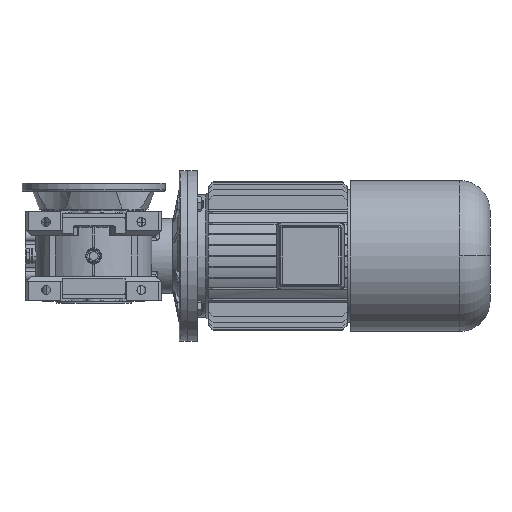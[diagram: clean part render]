
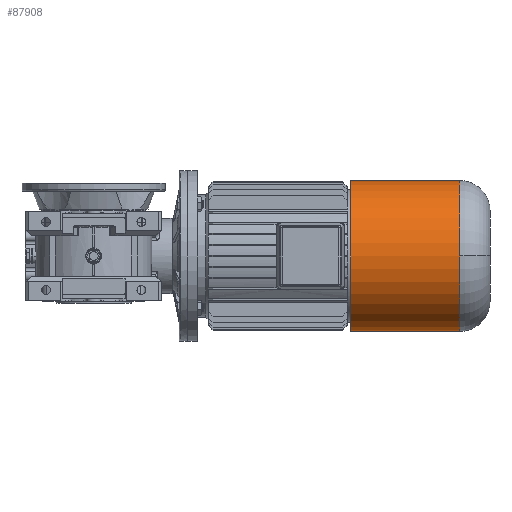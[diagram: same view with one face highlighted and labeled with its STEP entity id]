
A CAD part, front view. The second image highlights one B-rep face of the part: STEP entity #87908.
In plain terms, the highlighted cylindrical face has radius 110.5 mm (diameter 221 mm), a partial arc.
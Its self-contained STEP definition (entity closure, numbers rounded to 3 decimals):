
#87858=CARTESIAN_POINT('',(378.9,0.0,0.0));
#87859=DIRECTION('',(1.0,0.0,0.0));
#87860=DIRECTION('',(0.0,1.0,0.0));
#87861=AXIS2_PLACEMENT_3D('',#87858,#87859,#87860);
#87862=CYLINDRICAL_SURFACE('',#87861,110.5);
#87863=CARTESIAN_POINT('',(299.0,110.5,0.0));
#87864=VERTEX_POINT('',#87863);
#87865=CARTESIAN_POINT('',(458.8,110.5,0.0));
#87866=VERTEX_POINT('',#87865);
#87867=CARTESIAN_POINT('',(299.0,110.5,0.0));
#87868=DIRECTION('',(1.0,0.0,0.0));
#87869=VECTOR('',#87868,159.8);
#87870=LINE('',#87867,#87869);
#87871=EDGE_CURVE('',#87864,#87866,#87870,.T.);
#87872=ORIENTED_EDGE('',*,*,#87871,.F.);
#87873=CARTESIAN_POINT('',(299.0,-110.5,0.));
#87874=VERTEX_POINT('',#87873);
#87875=CARTESIAN_POINT('',(299.0,0.0,0.0));
#87876=DIRECTION('',(1.0,0.0,0.0));
#87877=DIRECTION('',(0.0,1.0,0.0));
#87878=AXIS2_PLACEMENT_3D('',#87875,#87876,#87877);
#87879=CIRCLE('',#87878,110.5);
#87880=EDGE_CURVE('',#87864,#87874,#87879,.T.);
#87881=ORIENTED_EDGE('',*,*,#87880,.T.);
#87882=CARTESIAN_POINT('',(458.8,-110.5,0.));
#87883=VERTEX_POINT('',#87882);
#87884=CARTESIAN_POINT('',(458.8,-110.5,0.));
#87885=DIRECTION('',(-1.0,0.0,0.0));
#87886=VECTOR('',#87885,159.8);
#87887=LINE('',#87884,#87886);
#87888=EDGE_CURVE('',#87883,#87874,#87887,.T.);
#87889=ORIENTED_EDGE('',*,*,#87888,.F.);
#87890=CARTESIAN_POINT('',(458.8,0.,110.5));
#87891=VERTEX_POINT('',#87890);
#87892=CARTESIAN_POINT('',(458.8,0.0,0.0));
#87893=DIRECTION('',(1.0,0.0,0.0));
#87894=DIRECTION('',(0.0,1.0,0.0));
#87895=AXIS2_PLACEMENT_3D('',#87892,#87893,#87894);
#87896=CIRCLE('',#87895,110.5);
#87897=EDGE_CURVE('',#87891,#87883,#87896,.T.);
#87898=ORIENTED_EDGE('',*,*,#87897,.F.);
#87899=CARTESIAN_POINT('',(458.8,0.0,0.0));
#87900=DIRECTION('',(1.0,0.0,0.0));
#87901=DIRECTION('',(0.0,1.0,0.0));
#87902=AXIS2_PLACEMENT_3D('',#87899,#87900,#87901);
#87903=CIRCLE('',#87902,110.5);
#87904=EDGE_CURVE('',#87866,#87891,#87903,.T.);
#87905=ORIENTED_EDGE('',*,*,#87904,.F.);
#87906=EDGE_LOOP('',(#87872,#87881,#87889,#87898,#87905));
#87907=FACE_OUTER_BOUND('',#87906,.T.);
#87908=ADVANCED_FACE('',(#87907),#87862,.T.);
